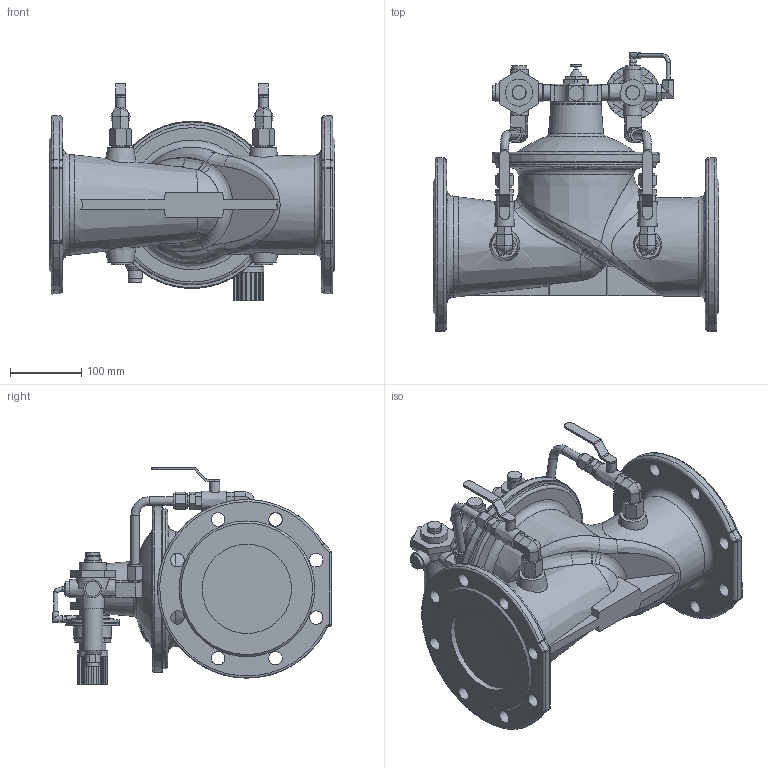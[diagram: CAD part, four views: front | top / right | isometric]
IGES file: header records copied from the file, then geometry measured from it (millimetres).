
Start section: SolidWorks IGES file using analytic representation for surfaces
Global section: file name: \\avksan2\techshare\PBM outline export from Enovia\O_859_00_DN125_1XXXX00_REV01.igs; native system: SolidWorks 2019; preprocessor: SolidWorks 2019; author: pbm; date: 201117.125820; units: millimetre
Bounding box: 400 x 390.53 x 304.79 mm (x, y, z)
Surface area: 601873.5 mm2 (no closed solid volume)
Topology: 0 solids, 0 shells, 823 faces, 3944 edges, 3819 vertices
Faces by surface type: bspline 547, revolution 276
